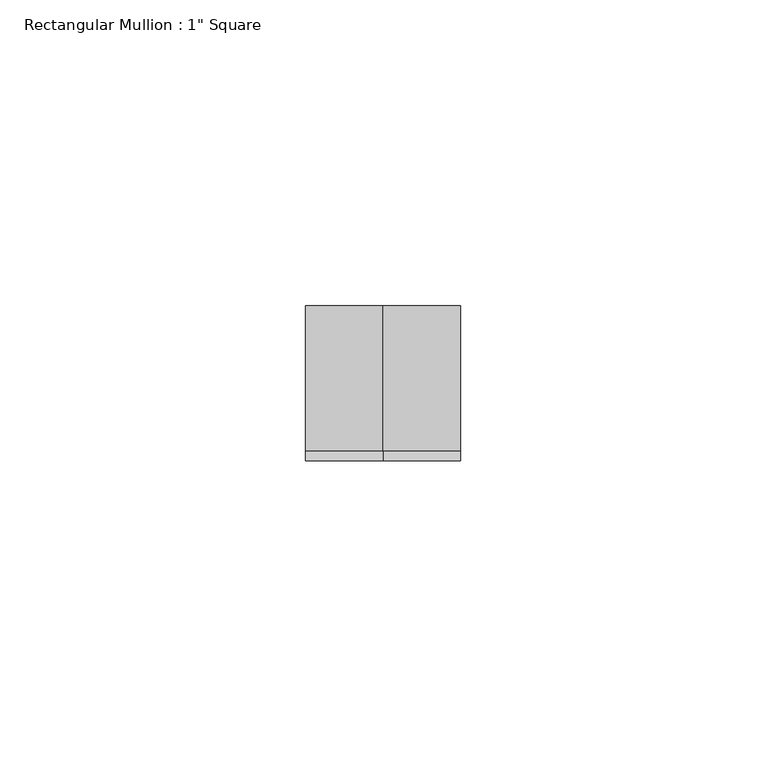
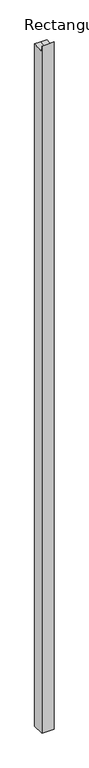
"""IFC4 building model written with IfcOpenShell, lengths in millimetres: member geometry."""

from ifc_helpers import new_model, si_unit, origin, place, context, project, spatial, faceted_brep, source, transform, mapped, element, save


def member_e23d1186(model_context):
    return source(origin(), model_context, "Body", "Brep", [
        faceted_brep([(12.7, 12.7, -1485.9), (12.7, -12.7, -1485.9), (-12.7, -12.7, -1485.9), (-12.7, 12.7, -1485.9), (-12.7, 12.7, 1.4996528), (0.0, 12.7, 1.4996528), (12.7, 12.7, 1.4996528), (-12.7, -12.7, 11.903125), (-12.7, -11.0128906, -1.4878906), (12.7, -12.7, 11.903125), (0.0, -12.7, 11.903125), (12.7, -11.0128906, -1.4878906), (0.0, -11.0128906, -1.4878906)], [[[0, 1, 2, 3]], [[4, 5, 6, 0, 3]], [[7, 8, 4, 3, 2]], [[9, 10, 7, 2, 1]], [[6, 11, 9, 1, 0]], [[6, 5, 12, 11]], [[5, 4, 8, 12]], [[8, 7, 10, 12]], [[10, 9, 11, 12]]]),
    ])


if __name__ == "__main__":
    model = new_model("IFC4")
    model_context = context("Model", 3, world=origin())
    ifc_project = project(units=[si_unit("LENGTHUNIT", "METRE", prefix="MILLI")], contexts=[model_context])
    site = spatial("IfcSite", under=ifc_project)
    building = spatial("IfcBuilding", under=site)
    placement = place(None, origin())
    member_shape = member_e23d1186(model_context)
    element("IfcMember", 1, ObjectType="Rectangular Mullion : 1\" Square", at=placement, inside=building, context=model_context, shape_type="MappedRepresentation", body=[
        mapped(member_shape, transform((0.0, 0.0, 0.0), x_axis=(1.0, 0.0, 0.0), y_axis=(0.0, 1.0, 0.0), z_axis=(0.0, 0.0, 1.0))),
    ])
    save(model, "model.ifc")
